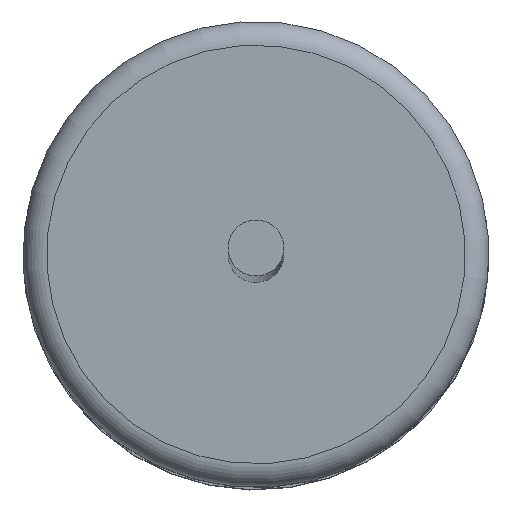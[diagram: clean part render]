
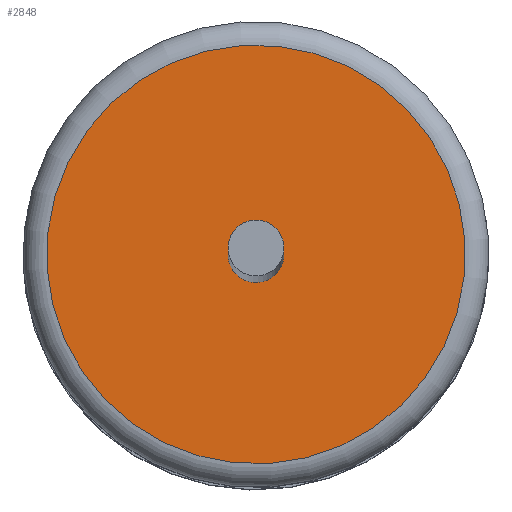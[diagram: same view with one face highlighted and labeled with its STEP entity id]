
A CAD part, top view. The second image highlights one B-rep face of the part: STEP entity #2848.
In plain terms, the highlighted planar face has unit normal (0, 0, 1) as drawn and (0, -1, 0) by its records, which use the part's own axes.
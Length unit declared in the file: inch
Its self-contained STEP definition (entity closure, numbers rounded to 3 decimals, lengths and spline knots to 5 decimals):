
#38=FACE_BOUND('',#483,.T.);
#169=PLANE('',#3093);
#322=FACE_OUTER_BOUND('',#482,.T.);
#482=EDGE_LOOP('',(#2652,#2653));
#483=EDGE_LOOP('',(#2654));
#713=CIRCLE('',#3083,0.01181);
#714=CIRCLE('',#3086,0.08843);
#718=CIRCLE('',#3090,0.08843);
#1379=VERTEX_POINT('',#6416);
#1380=VERTEX_POINT('',#6421);
#1381=VERTEX_POINT('',#6422);
#1801=EDGE_CURVE('',#1379,#1379,#713,.T.);
#1802=EDGE_CURVE('',#1380,#1381,#714,.T.);
#1806=EDGE_CURVE('',#1381,#1380,#718,.T.);
#2652=ORIENTED_EDGE('',*,*,#1802,.F.);
#2653=ORIENTED_EDGE('',*,*,#1806,.F.);
#2654=ORIENTED_EDGE('',*,*,#1801,.T.);
#2848=ADVANCED_FACE('',(#322,#38),#169,.F.);
#3083=AXIS2_PLACEMENT_3D('',#6418,#3625,#3626);
#3086=AXIS2_PLACEMENT_3D('',#6423,#3631,#3632);
#3090=AXIS2_PLACEMENT_3D('',#6429,#3639,#3640);
#3093=AXIS2_PLACEMENT_3D('',#6434,#3646,#3647);
#3625=DIRECTION('center_axis',(0.,1.,0.));
#3626=DIRECTION('ref_axis',(-1.,0.,0.));
#3631=DIRECTION('center_axis',(0.,1.,0.));
#3632=DIRECTION('ref_axis',(1.,0.,0.));
#3639=DIRECTION('center_axis',(0.,1.,0.));
#3640=DIRECTION('ref_axis',(1.,0.,0.));
#3646=DIRECTION('center_axis',(0.,1.,0.));
#3647=DIRECTION('ref_axis',(0.,0.,1.));
#6416=CARTESIAN_POINT('',(0.01181,0.,0.));
#6418=CARTESIAN_POINT('Origin',(0.,0.,0.));
#6421=CARTESIAN_POINT('',(-0.08843,0.,0.));
#6422=CARTESIAN_POINT('',(0.,0.,0.08843));
#6423=CARTESIAN_POINT('Origin',(0.,0.,0.));
#6429=CARTESIAN_POINT('Origin',(0.,0.,0.));
#6434=CARTESIAN_POINT('Origin',(0.,0.,0.));
